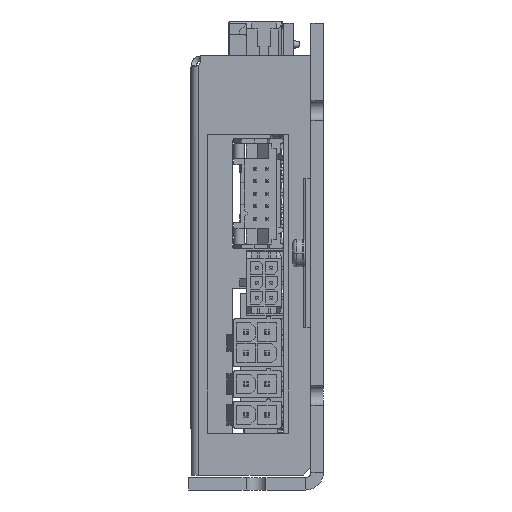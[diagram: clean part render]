
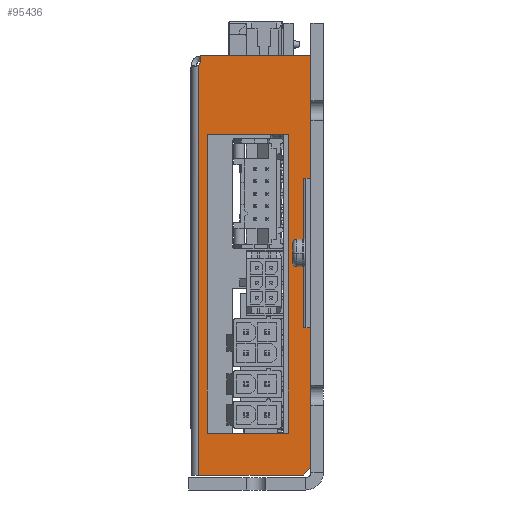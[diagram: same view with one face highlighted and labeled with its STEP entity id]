
A CAD part, left-side view. The second image highlights one B-rep face of the part: STEP entity #95436.
In plain terms, the highlighted planar face has unit normal (-1, 0, 0).
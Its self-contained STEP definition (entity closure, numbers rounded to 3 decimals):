
#93905=DIRECTION('',(0.,0.,-1.));
#93906=VECTOR('',#93905,82.177);
#93907=CARTESIAN_POINT('',(-51.5,-1.5,37.677));
#93908=LINE('',#93907,#93906);
#94004=CARTESIAN_POINT('',(-51.5,-0.602,38.588));
#94005=DIRECTION('',(-1.,0.,0.));
#94006=DIRECTION('',(0.,-0.702,-0.712));
#94007=AXIS2_PLACEMENT_3D('',#94004,#94005,#94006);
#94009=DIRECTION('',(0.,0.,-1.));
#94010=VECTOR('',#94009,0.912);
#94011=CARTESIAN_POINT('',(-51.5,-1.882,39.5));
#94012=LINE('',#94011,#94010);
#94013=DIRECTION('',(0.,-1.,0.));
#94014=VECTOR('',#94013,22.118);
#94015=CARTESIAN_POINT('',(-51.5,-1.882,39.5));
#94016=LINE('',#94015,#94014);
#94017=DIRECTION('',(0.,0.,1.));
#94018=VECTOR('',#94017,28.);
#94019=CARTESIAN_POINT('',(-51.5,-24.,-43.));
#94020=LINE('',#94019,#94018);
#94021=DIRECTION('',(0.,-0.707,0.707));
#94022=VECTOR('',#94021,2.121);
#94023=CARTESIAN_POINT('',(-51.5,-22.5,-44.5));
#94024=LINE('',#94023,#94022);
#94025=DIRECTION('',(0.,-1.,0.));
#94026=VECTOR('',#94025,21.);
#94027=CARTESIAN_POINT('',(-51.5,-1.5,-44.5));
#94028=LINE('',#94027,#94026);
#94029=DIRECTION('',(0.,-1.,0.));
#94030=VECTOR('',#94029,16.3);
#94031=CARTESIAN_POINT('',(-51.5,-3.2,23.8));
#94032=LINE('',#94031,#94030);
#94033=DIRECTION('',(0.,0.,1.));
#94034=VECTOR('',#94033,59.9);
#94035=CARTESIAN_POINT('',(-51.5,-3.2,-36.1));
#94036=LINE('',#94035,#94034);
#94037=DIRECTION('',(0.,1.,0.));
#94038=VECTOR('',#94037,16.3);
#94039=CARTESIAN_POINT('',(-51.5,-19.5,-36.1));
#94040=LINE('',#94039,#94038);
#94041=DIRECTION('',(0.,0.,-1.));
#94042=VECTOR('',#94041,59.9);
#94043=CARTESIAN_POINT('',(-51.5,-19.5,23.8));
#94044=LINE('',#94043,#94042);
#94090=DIRECTION('',(0.,1.,0.));
#94091=VECTOR('',#94090,1.5);
#94092=CARTESIAN_POINT('',(-51.5,-24.,15.));
#94093=LINE('',#94092,#94091);
#94098=DIRECTION('',(0.,0.,1.));
#94099=VECTOR('',#94098,24.5);
#94100=CARTESIAN_POINT('',(-51.5,-24.,15.));
#94101=LINE('',#94100,#94099);
#94136=DIRECTION('',(0.,0.,1.));
#94137=VECTOR('',#94136,30.);
#94138=CARTESIAN_POINT('',(-51.5,-22.5,-15.));
#94139=LINE('',#94138,#94137);
#94258=DIRECTION('',(0.,1.,0.));
#94259=VECTOR('',#94258,1.5);
#94260=CARTESIAN_POINT('',(-51.5,-24.,-15.));
#94261=LINE('',#94260,#94259);
#94852=CARTESIAN_POINT('',(-51.5,-22.5,-44.5));
#94853=CARTESIAN_POINT('',(-51.5,-24.,-43.));
#94854=VERTEX_POINT('',#94852);
#94855=VERTEX_POINT('',#94853);
#94868=CARTESIAN_POINT('',(-51.5,-1.5,-44.5));
#94869=VERTEX_POINT('',#94868);
#94870=CARTESIAN_POINT('',(-51.5,-24.,-15.));
#94871=VERTEX_POINT('',#94870);
#94900=CARTESIAN_POINT('',(-51.5,-24.,39.5));
#94902=VERTEX_POINT('',#94900);
#94904=CARTESIAN_POINT('',(-51.5,-24.,15.));
#94905=VERTEX_POINT('',#94904);
#94922=CARTESIAN_POINT('',(-51.5,-22.5,15.));
#94923=VERTEX_POINT('',#94922);
#94924=CARTESIAN_POINT('',(-51.5,-22.5,-15.));
#94925=VERTEX_POINT('',#94924);
#94962=CARTESIAN_POINT('',(-51.5,-1.5,37.677));
#94963=CARTESIAN_POINT('',(-51.5,-1.882,38.588));
#94964=VERTEX_POINT('',#94962);
#94965=VERTEX_POINT('',#94963);
#94966=CARTESIAN_POINT('',(-51.5,-1.882,39.5));
#94967=VERTEX_POINT('',#94966);
#95032=CARTESIAN_POINT('',(-51.5,-3.2,23.8));
#95033=CARTESIAN_POINT('',(-51.5,-19.5,23.8));
#95034=VERTEX_POINT('',#95032);
#95035=VERTEX_POINT('',#95033);
#95036=CARTESIAN_POINT('',(-51.5,-19.5,-36.1));
#95037=VERTEX_POINT('',#95036);
#95038=CARTESIAN_POINT('',(-51.5,-3.2,-36.1));
#95039=VERTEX_POINT('',#95038);
#95400=CARTESIAN_POINT('',(-51.5,0.,-25.017));
#95401=DIRECTION('',(-1.,0.,0.));
#95402=DIRECTION('',(0.,0.,-1.));
#95403=AXIS2_PLACEMENT_3D('',#95400,#95401,#95402);
#95404=PLANE('',#95403);
#95406=ORIENTED_EDGE('',*,*,#95405,.T.);
#95408=ORIENTED_EDGE('',*,*,#95407,.F.);
#95410=ORIENTED_EDGE('',*,*,#95409,.T.);
#95412=ORIENTED_EDGE('',*,*,#95411,.F.);
#95414=ORIENTED_EDGE('',*,*,#95413,.T.);
#95416=ORIENTED_EDGE('',*,*,#95415,.F.);
#95418=ORIENTED_EDGE('',*,*,#95417,.F.);
#95420=ORIENTED_EDGE('',*,*,#95419,.F.);
#95421=ORIENTED_EDGE('',*,*,#95390,.F.);
#95422=ORIENTED_EDGE('',*,*,#95380,.F.);
#95423=ORIENTED_EDGE('',*,*,#95071,.F.);
#95424=EDGE_LOOP('',(#95406,#95408,#95410,#95412,#95414,#95416,#95418,#95420,
#95421,#95422,#95423));
#95425=FACE_OUTER_BOUND('',#95424,.F.);
#95427=ORIENTED_EDGE('',*,*,#95426,.F.);
#95429=ORIENTED_EDGE('',*,*,#95428,.F.);
#95431=ORIENTED_EDGE('',*,*,#95430,.F.);
#95433=ORIENTED_EDGE('',*,*,#95432,.F.);
#95434=EDGE_LOOP('',(#95427,#95429,#95431,#95433));
#95435=FACE_BOUND('',#95434,.F.);
#95436=ADVANCED_FACE('',(#95425,#95435),#95404,.T.);
#94008=CIRCLE('',#94007,1.28);
#95071=EDGE_CURVE('',#94964,#94869,#93908,.T.);
#95380=EDGE_CURVE('',#94869,#94854,#94028,.T.);
#95390=EDGE_CURVE('',#94854,#94855,#94024,.T.);
#95405=EDGE_CURVE('',#94964,#94965,#94008,.T.);
#95407=EDGE_CURVE('',#94967,#94965,#94012,.T.);
#95409=EDGE_CURVE('',#94967,#94902,#94016,.T.);
#95411=EDGE_CURVE('',#94905,#94902,#94101,.T.);
#95413=EDGE_CURVE('',#94905,#94923,#94093,.T.);
#95415=EDGE_CURVE('',#94925,#94923,#94139,.T.);
#95417=EDGE_CURVE('',#94871,#94925,#94261,.T.);
#95419=EDGE_CURVE('',#94855,#94871,#94020,.T.);
#95426=EDGE_CURVE('',#95034,#95035,#94032,.T.);
#95428=EDGE_CURVE('',#95039,#95034,#94036,.T.);
#95430=EDGE_CURVE('',#95037,#95039,#94040,.T.);
#95432=EDGE_CURVE('',#95035,#95037,#94044,.T.);
